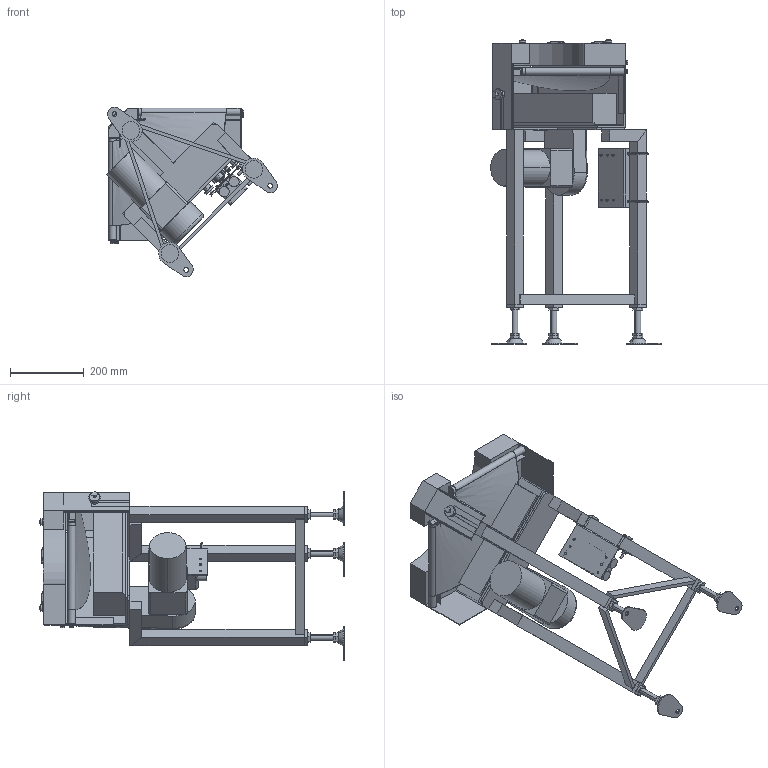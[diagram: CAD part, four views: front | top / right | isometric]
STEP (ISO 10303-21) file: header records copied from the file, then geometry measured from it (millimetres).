
FILE_DESCRIPTION( (''), '2;1');
FILE_NAME ('GFBC-UD-309-150-90°-L-K-60.stp','2025-02-03T08:44:13',(''),(''),'spGate 20.6.2 (****-****-****-****)','','');
FILE_SCHEMA (('AUTOMOTIVE_DESIGN'));
Length unit declared in the file: millimetre
Products named in the file (53): NewModel; TEMP_X_T-prt0; TEMP_X_T-prt1; TEMP_X_T-prt2; TEMP_X_T-prt3; TEMP_X_T-prt4; TEMP_X_T-prt5; TEMP_X_T-prt6; TEMP_X_T-prt7; TEMP_X_T-prt8; TEMP_X_T-prt9; TEMP_X_T-prt10; TEMP_X_T-prt11; TEMP_X_T-prt12; TEMP_X_T-prt13; TEMP_X_T-prt14; TEMP_X_T-prt15; TEMP_X_T-prt16; TEMP_X_T-prt17; TEMP_X_T-prt18; TEMP_X_T-prt19; TEMP_X_T-prt20; TEMP_X_T-prt21; TEMP_X_T-prt22; TEMP_X_T-prt23; TEMP_X_T-prt24; TEMP_X_T-prt25; TEMP_X_T-prt26; TEMP_X_T-prt27; TEMP_X_T-prt28; TEMP_X_T-prt29; TEMP_X_T-prt30; TEMP_X_T-prt31; TEMP_X_T-prt32; TEMP_X_T-prt33; TEMP_X_T-prt34; TEMP_X_T-prt35; TEMP_X_T-prt36; TEMP_X_T-prt37; TEMP_X_T-prt38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
Assembly tree (52 placements, depth 2):
  NewModel
    TEMP_X_T-prt0
    TEMP_X_T-prt1
    TEMP_X_T-prt2
    TEMP_X_T-prt3
    TEMP_X_T-prt4
    TEMP_X_T-prt5
    TEMP_X_T-prt6
    TEMP_X_T-prt7
    TEMP_X_T-prt8
    TEMP_X_T-prt9
    TEMP_X_T-prt10
    TEMP_X_T-prt11
    TEMP_X_T-prt12
    TEMP_X_T-prt13
    TEMP_X_T-prt14
    TEMP_X_T-prt15
    TEMP_X_T-prt16
    TEMP_X_T-prt17
    TEMP_X_T-prt18
    TEMP_X_T-prt19
    TEMP_X_T-prt20
    TEMP_X_T-prt21
    TEMP_X_T-prt22
    TEMP_X_T-prt23
    TEMP_X_T-prt24
    TEMP_X_T-prt25
    TEMP_X_T-prt26
    TEMP_X_T-prt27
    TEMP_X_T-prt28
    TEMP_X_T-prt29
    TEMP_X_T-prt30
    TEMP_X_T-prt31
    TEMP_X_T-prt32
    TEMP_X_T-prt33
    TEMP_X_T-prt34
    TEMP_X_T-prt35
    TEMP_X_T-prt36
    TEMP_X_T-prt37
    TEMP_X_T-prt38
    TEMP_X_T-prt39
    TEMP_X_T-prt40
    TEMP_X_T-prt41
    TEMP_X_T-prt42
    TEMP_X_T-prt43
    TEMP_X_T-prt44
    TEMP_X_T-prt45
    TEMP_X_T-prt46
    TEMP_X_T-prt47
    TEMP_X_T-prt48
    TEMP_X_T-prt49
    TEMP_X_T-prt50
    TEMP_X_T-prt51
Bounding box: 463.35 x 827.92 x 461.08 mm (x, y, z)
Volume: 13706030.4 mm3; surface area: 1901882.4 mm2
Topology: 52 solids, 52 shells, 1019 faces, 2344 edges, 1511 vertices
Faces by surface type: plane 645, cylinder 282, bspline 88, sphere 4
Entity records: 52837 total; most frequent: CARTESIAN_POINT 9247, DIRECTION 4686, ORIENTED_EDGE 4672, COLOUR_RGB 3407, PRESENTATION_STYLE_ASSIGNMENT 3407, STYLED_ITEM 3407, EDGE_CURVE 2336, DRAUGHTING_PRE_DEFINED_CURVE_FONT 2336
